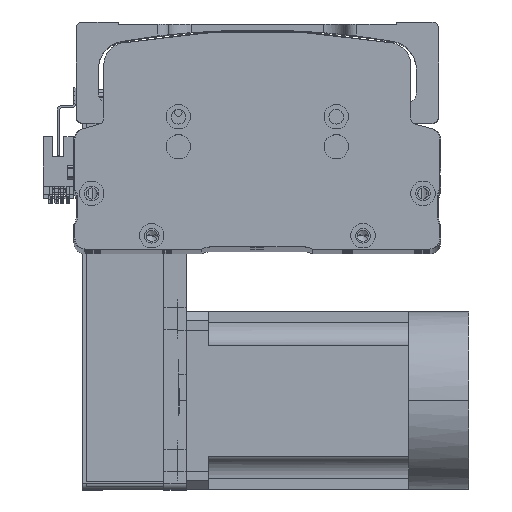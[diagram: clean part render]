
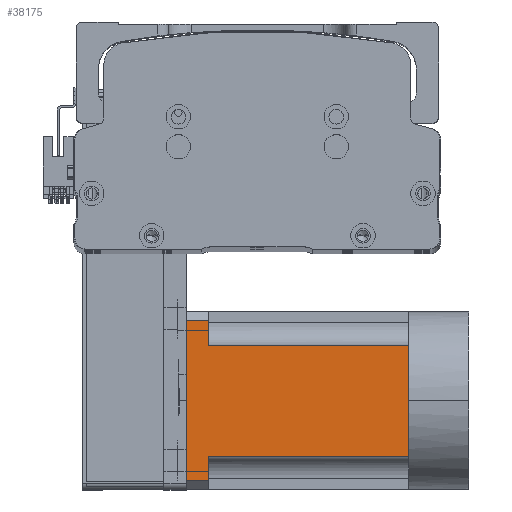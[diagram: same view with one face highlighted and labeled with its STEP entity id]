
A CAD part, top view. The second image highlights one B-rep face of the part: STEP entity #38175.
In plain terms, the highlighted planar face has unit normal (0, 0, 1) as drawn and (0, 0, -1) by its records, which use the part's own axes.
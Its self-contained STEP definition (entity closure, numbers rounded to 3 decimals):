
#204 = CARTESIAN_POINT ( 'NONE',  ( 36., 100., -40. ) ) ;
#231 = EDGE_CURVE ( 'NONE', #62426, #15812, #63964, .T. ) ;
#785 = DIRECTION ( 'NONE',  ( 0., -1., 0. ) ) ;
#3405 = ORIENTED_EDGE ( 'NONE', *, *, #14137, .T. ) ;
#3482 = ORIENTED_EDGE ( 'NONE', *, *, #14217, .T. ) ;
#4075 = VERTEX_POINT ( 'NONE', #204 ) ;
#5039 = VERTEX_POINT ( 'NONE', #49319 ) ;
#5460 = VERTEX_POINT ( 'NONE', #58355 ) ;
#8180 = LINE ( 'NONE', #61150, #46905 ) ;
#8456 = DIRECTION ( 'NONE',  ( -1., 0., 0. ) ) ;
#9523 = CARTESIAN_POINT ( 'NONE',  ( -40., 90., -40. ) ) ;
#9692 = DIRECTION ( 'NONE',  ( -1., 0., 0. ) ) ;
#10494 = ORIENTED_EDGE ( 'NONE', *, *, #27318, .F. ) ;
#13828 = EDGE_CURVE ( 'NONE', #4075, #36175, #35899, .T. ) ;
#14137 = EDGE_CURVE ( 'NONE', #27111, #62426, #8180, .T. ) ;
#14217 = EDGE_CURVE ( 'NONE', #37383, #63487, #58860, .T. ) ;
#14617 = DIRECTION ( 'NONE',  ( -1., 0., 0. ) ) ;
#15426 = EDGE_CURVE ( 'NONE', #63487, #5039, #22271, .T. ) ;
#15812 = VERTEX_POINT ( 'NONE', #65063 ) ;
#17924 = CARTESIAN_POINT ( 'NONE',  ( -25., 90., -40. ) ) ;
#18489 = VECTOR ( 'NONE', #785, 1000. ) ;
#19488 = CARTESIAN_POINT ( 'NONE',  ( -36., -27., -40. ) ) ;
#19755 = PLANE ( 'NONE',  #36511 ) ;
#20224 = CARTESIAN_POINT ( 'NONE',  ( -40., 0., -40. ) ) ;
#20467 = VECTOR ( 'NONE', #58431, 1000. ) ;
#22271 = LINE ( 'NONE', #20224, #59480 ) ;
#22291 = LINE ( 'NONE', #9523, #61063 ) ;
#22449 = VECTOR ( 'NONE', #23162, 1000. ) ;
#23027 = CARTESIAN_POINT ( 'NONE',  ( -25., -27., -40. ) ) ;
#23162 = DIRECTION ( 'NONE',  ( 0., -1., 0. ) ) ;
#24838 = DIRECTION ( 'NONE',  ( 0., 0., -1. ) ) ;
#27032 = ORIENTED_EDGE ( 'NONE', *, *, #30697, .T. ) ;
#27111 = VERTEX_POINT ( 'NONE', #17924 ) ;
#27318 = EDGE_CURVE ( 'NONE', #4075, #15812, #53849, .T. ) ;
#27341 = CARTESIAN_POINT ( 'NONE',  ( 36., 90., -40. ) ) ;
#27580 = CARTESIAN_POINT ( 'NONE',  ( 25., 90., -40. ) ) ;
#28001 = CARTESIAN_POINT ( 'NONE',  ( 25., 0., -40. ) ) ;
#30697 = EDGE_CURVE ( 'NONE', #36175, #37383, #22291, .T. ) ;
#32155 = EDGE_CURVE ( 'NONE', #5460, #27111, #48934, .T. ) ;
#33105 = CARTESIAN_POINT ( 'NONE',  ( 36., -27., -40. ) ) ;
#33859 = ORIENTED_EDGE ( 'NONE', *, *, #15426, .T. ) ;
#34024 = ORIENTED_EDGE ( 'NONE', *, *, #13828, .T. ) ;
#34340 = CARTESIAN_POINT ( 'NONE',  ( -40., -27., -40. ) ) ;
#35119 = CARTESIAN_POINT ( 'NONE',  ( -40., 100., -40. ) ) ;
#35899 = LINE ( 'NONE', #33105, #22449 ) ;
#36175 = VERTEX_POINT ( 'NONE', #27341 ) ;
#36511 = AXIS2_PLACEMENT_3D ( 'NONE', #34340, #24838, #60213 ) ;
#37048 = VECTOR ( 'NONE', #54863, 1000. ) ;
#37383 = VERTEX_POINT ( 'NONE', #27580 ) ;
#38175 = ADVANCED_FACE ( 'NONE', ( #55880 ), #19755, .T. ) ;
#38744 = CARTESIAN_POINT ( 'NONE',  ( -40., 0., -40. ) ) ;
#42067 = CARTESIAN_POINT ( 'NONE',  ( -36., 90., -40. ) ) ;
#42824 = VECTOR ( 'NONE', #8456, 1000. ) ;
#46905 = VECTOR ( 'NONE', #56082, 1000. ) ;
#48934 = LINE ( 'NONE', #23027, #20467 ) ;
#49319 = CARTESIAN_POINT ( 'NONE',  ( 0., 0., -40. ) ) ;
#49900 = EDGE_CURVE ( 'NONE', #5039, #5460, #56316, .T. ) ;
#52556 = ORIENTED_EDGE ( 'NONE', *, *, #231, .T. ) ;
#52647 = ORIENTED_EDGE ( 'NONE', *, *, #32155, .T. ) ;
#53849 = LINE ( 'NONE', #35119, #64127 ) ;
#54863 = DIRECTION ( 'NONE',  ( 0., 1., 0. ) ) ;
#55391 = DIRECTION ( 'NONE',  ( -1., 0., 0. ) ) ;
#55880 = FACE_OUTER_BOUND ( 'NONE', #60052, .T. ) ;
#56082 = DIRECTION ( 'NONE',  ( -1., 0., 0. ) ) ;
#56316 = LINE ( 'NONE', #38744, #42824 ) ;
#58355 = CARTESIAN_POINT ( 'NONE',  ( -25., 0., -40. ) ) ;
#58431 = DIRECTION ( 'NONE',  ( 0., 1., 0. ) ) ;
#58860 = LINE ( 'NONE', #61582, #18489 ) ;
#59480 = VECTOR ( 'NONE', #55391, 1000. ) ;
#60052 = EDGE_LOOP ( 'NONE', ( #10494, #34024, #27032, #3482, #33859, #61928, #52647, #3405, #52556 ) ) ;
#60213 = DIRECTION ( 'NONE',  ( -1., 0., 0. ) ) ;
#61063 = VECTOR ( 'NONE', #14617, 1000. ) ;
#61150 = CARTESIAN_POINT ( 'NONE',  ( -40., 90., -40. ) ) ;
#61582 = CARTESIAN_POINT ( 'NONE',  ( 25., -27., -40. ) ) ;
#61928 = ORIENTED_EDGE ( 'NONE', *, *, #49900, .T. ) ;
#62426 = VERTEX_POINT ( 'NONE', #42067 ) ;
#63487 = VERTEX_POINT ( 'NONE', #28001 ) ;
#63964 = LINE ( 'NONE', #19488, #37048 ) ;
#64127 = VECTOR ( 'NONE', #9692, 1000. ) ;
#65063 = CARTESIAN_POINT ( 'NONE',  ( -36., 100., -40. ) ) ;
